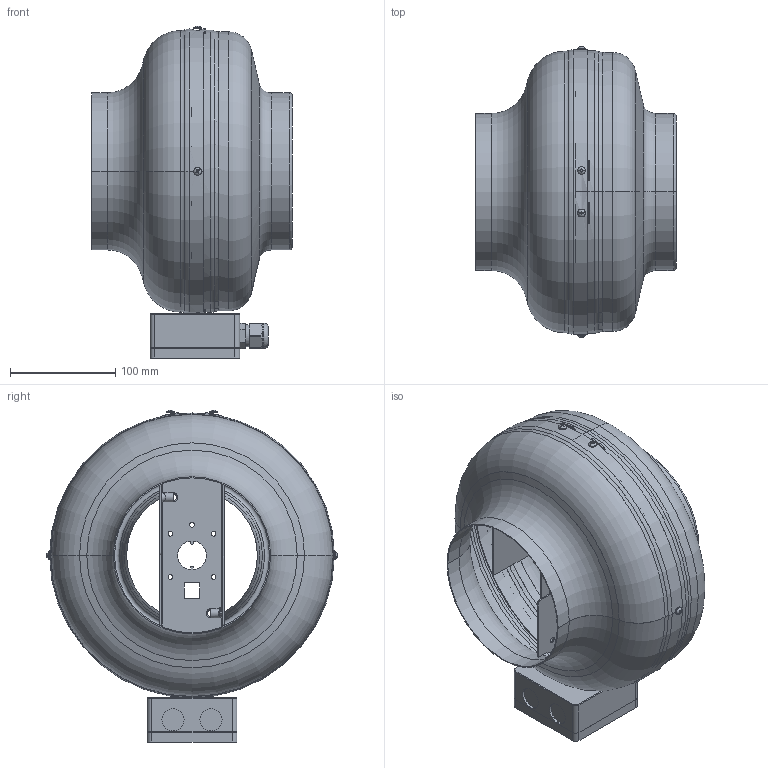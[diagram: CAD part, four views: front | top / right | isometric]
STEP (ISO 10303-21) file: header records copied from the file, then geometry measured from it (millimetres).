
FILE_DESCRIPTION (( 'STEP AP203' ), '1' );
FILE_NAME ('134984-00_RS15010.STEP', '2015-12-18T12:30:39', ( '' ), ( '' ), 'SwSTEP 2.0', 'SolidWorks 2012', '' );
FILE_SCHEMA (( 'CONFIG_CONTROL_DESIGN' ));
Length unit declared in the file: millimetre
Products named in the file (1): 134984-00_RS15010
Bounding box: 190.49 x 275.68 x 314.84 mm (x, y, z)
Surface area: 440483.9 mm2 (no closed solid volume)
Topology: 0 solids, 15 shells, 295 faces, 1159 edges, 856 vertices
Faces by surface type: cylinder 116, plane 102, torus 54, cone 13, sphere 6, bspline 4
Entity records: 13774 total; most frequent: CARTESIAN_POINT 4253, DIRECTION 2020, ORIENTED_EDGE 1727, EDGE_CURVE 1147, VERTEX_POINT 850, AXIS2_PLACEMENT_3D 769, LINE 482, VECTOR 482
